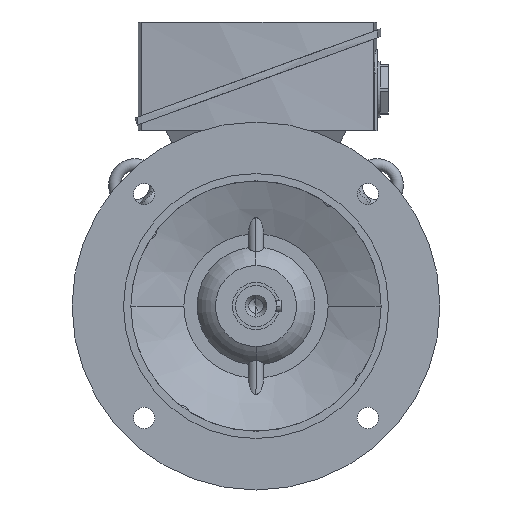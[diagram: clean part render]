
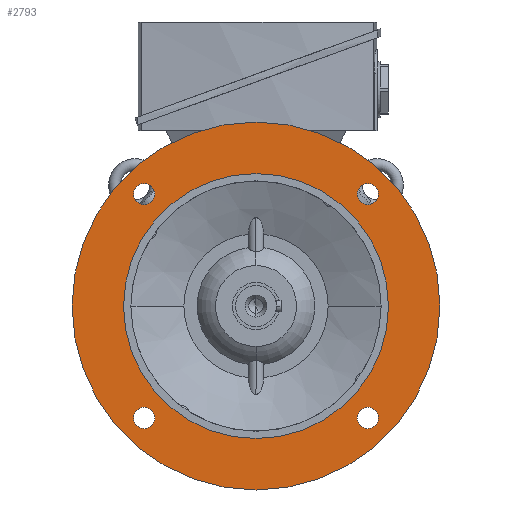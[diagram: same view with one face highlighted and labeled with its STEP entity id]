
A CAD part, left-side view. The second image highlights one B-rep face of the part: STEP entity #2793.
In plain terms, the highlighted planar face has unit normal (-1, 0, 0).
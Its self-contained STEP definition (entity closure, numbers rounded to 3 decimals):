
#2793=ADVANCED_FACE('',(#5654,#5655,#5656,#5657,#5658,#5659),#5660,.T.);
#5654=FACE_BOUND('',#8516,.T.);
#5655=FACE_BOUND('',#8517,.T.);
#5656=FACE_BOUND('',#8518,.T.);
#5657=FACE_BOUND('',#8519,.T.);
#5658=FACE_OUTER_BOUND('',#8520,.T.);
#5659=FACE_BOUND('',#8521,.T.);
#5660=PLANE('',#8522);
#8516=EDGE_LOOP('',(#17201,#17202));
#8517=EDGE_LOOP('',(#17203,#17204));
#8518=EDGE_LOOP('',(#17205,#17206));
#8519=EDGE_LOOP('',(#17207,#17208));
#8520=EDGE_LOOP('',(#17209,#17210));
#8521=EDGE_LOOP('',(#17211,#17212));
#8522=AXIS2_PLACEMENT_3D('',#17213,#17214,#17215);
#17201=ORIENTED_EDGE('',*,*,#20620,.T.);
#17202=ORIENTED_EDGE('',*,*,#17468,.T.);
#17203=ORIENTED_EDGE('',*,*,#20623,.T.);
#17204=ORIENTED_EDGE('',*,*,#17463,.T.);
#17205=ORIENTED_EDGE('',*,*,#20626,.T.);
#17206=ORIENTED_EDGE('',*,*,#17458,.T.);
#17207=ORIENTED_EDGE('',*,*,#20629,.T.);
#17208=ORIENTED_EDGE('',*,*,#17453,.T.);
#17209=ORIENTED_EDGE('',*,*,#17433,.F.);
#17210=ORIENTED_EDGE('',*,*,#20683,.F.);
#17211=ORIENTED_EDGE('',*,*,#17440,.T.);
#17212=ORIENTED_EDGE('',*,*,#20681,.T.);
#17213=CARTESIAN_POINT('',(-40.5,107.5,0.0));
#17214=DIRECTION('',(-1.0,0.0,0.0));
#17215=DIRECTION('',(0.0,-1.0,0.0));
#17433=EDGE_CURVE('',#20956,#20959,#20960,.T.);
#17440=EDGE_CURVE('',#20966,#20970,#20972,.T.);
#17453=EDGE_CURVE('',#20995,#20992,#20996,.T.);
#17458=EDGE_CURVE('',#21004,#21001,#21005,.T.);
#17463=EDGE_CURVE('',#21013,#21010,#21014,.T.);
#17468=EDGE_CURVE('',#21022,#21019,#21023,.T.);
#20620=EDGE_CURVE('',#21019,#21022,#25691,.T.);
#20623=EDGE_CURVE('',#21010,#21013,#25694,.T.);
#20626=EDGE_CURVE('',#21001,#21004,#25697,.T.);
#20629=EDGE_CURVE('',#20992,#20995,#25700,.T.);
#20681=EDGE_CURVE('',#20970,#20966,#25766,.T.);
#20683=EDGE_CURVE('',#20959,#20956,#25768,.T.);
#20956=VERTEX_POINT('',#26357);
#20959=VERTEX_POINT('',#26361);
#20960=CIRCLE('',#26362,125.0);
#20966=VERTEX_POINT('',#26369);
#20970=VERTEX_POINT('',#26374);
#20972=CIRCLE('',#26377,90.0);
#20992=VERTEX_POINT('',#26415);
#20995=VERTEX_POINT('',#26419);
#20996=CIRCLE('',#26420,7.25);
#21001=VERTEX_POINT('',#26426);
#21004=VERTEX_POINT('',#26430);
#21005=CIRCLE('',#26431,7.25);
#21010=VERTEX_POINT('',#26437);
#21013=VERTEX_POINT('',#26441);
#21014=CIRCLE('',#26442,7.25);
#21019=VERTEX_POINT('',#26448);
#21022=VERTEX_POINT('',#26452);
#21023=CIRCLE('',#26453,7.25);
#25691=CIRCLE('',#38128,7.25);
#25694=CIRCLE('',#38131,7.25);
#25697=CIRCLE('',#38134,7.25);
#25700=CIRCLE('',#38137,7.25);
#25766=CIRCLE('',#38277,90.0);
#25768=CIRCLE('',#38279,125.0);
#26357=CARTESIAN_POINT('',(-40.5,125.0,0.0));
#26361=CARTESIAN_POINT('',(-40.5,-125.0,0.));
#26362=AXIS2_PLACEMENT_3D('',#38446,#38447,#38448);
#26369=CARTESIAN_POINT('',(-40.5,90.0,0.0));
#26374=CARTESIAN_POINT('',(-40.5,-90.0,0.));
#26377=AXIS2_PLACEMENT_3D('',#38458,#38459,#38460);
#26415=CARTESIAN_POINT('',(-40.5,-81.141,81.141));
#26419=CARTESIAN_POINT('',(-40.5,-70.887,70.887));
#26420=AXIS2_PLACEMENT_3D('',#38480,#38481,#38482);
#26426=CARTESIAN_POINT('',(-40.5,81.141,81.141));
#26430=CARTESIAN_POINT('',(-40.5,70.887,70.887));
#26431=AXIS2_PLACEMENT_3D('',#38488,#38489,#38490);
#26437=CARTESIAN_POINT('',(-40.5,81.141,-81.141));
#26441=CARTESIAN_POINT('',(-40.5,70.887,-70.887));
#26442=AXIS2_PLACEMENT_3D('',#38496,#38497,#38498);
#26448=CARTESIAN_POINT('',(-40.5,-81.141,-81.141));
#26452=CARTESIAN_POINT('',(-40.5,-70.887,-70.887));
#26453=AXIS2_PLACEMENT_3D('',#38504,#38505,#38506);
#38128=AXIS2_PLACEMENT_3D('',#41656,#41657,#41658);
#38131=AXIS2_PLACEMENT_3D('',#41662,#41663,#41664);
#38134=AXIS2_PLACEMENT_3D('',#41668,#41669,#41670);
#38137=AXIS2_PLACEMENT_3D('',#41674,#41675,#41676);
#38277=AXIS2_PLACEMENT_3D('',#41715,#41716,#41717);
#38279=AXIS2_PLACEMENT_3D('',#41718,#41719,#41720);
#38446=CARTESIAN_POINT('',(-40.5,0.0,0.0));
#38447=DIRECTION('',(1.0,0.0,0.0));
#38448=DIRECTION('',(0.0,1.0,0.0));
#38458=CARTESIAN_POINT('',(-40.5,0.0,0.0));
#38459=DIRECTION('',(1.0,0.0,0.0));
#38460=DIRECTION('',(0.0,1.0,0.0));
#38480=CARTESIAN_POINT('',(-40.5,-76.014,76.014));
#38481=DIRECTION('',(1.0,0.0,-0.0));
#38482=DIRECTION('',(0.0,-0.707,0.707));
#38488=CARTESIAN_POINT('',(-40.5,76.014,76.014));
#38489=DIRECTION('',(1.0,0.0,-0.0));
#38490=DIRECTION('',(0.0,0.707,0.707));
#38496=CARTESIAN_POINT('',(-40.5,76.014,-76.014));
#38497=DIRECTION('',(1.0,-0.0,0.0));
#38498=DIRECTION('',(0.0,0.707,-0.707));
#38504=CARTESIAN_POINT('',(-40.5,-76.014,-76.014));
#38505=DIRECTION('',(1.0,0.0,0.0));
#38506=DIRECTION('',(0.0,-0.707,-0.707));
#41656=CARTESIAN_POINT('',(-40.5,-76.014,-76.014));
#41657=DIRECTION('',(1.0,0.0,0.0));
#41658=DIRECTION('',(0.0,-0.707,-0.707));
#41662=CARTESIAN_POINT('',(-40.5,76.014,-76.014));
#41663=DIRECTION('',(1.0,-0.0,0.0));
#41664=DIRECTION('',(0.0,0.707,-0.707));
#41668=CARTESIAN_POINT('',(-40.5,76.014,76.014));
#41669=DIRECTION('',(1.0,0.0,-0.0));
#41670=DIRECTION('',(0.0,0.707,0.707));
#41674=CARTESIAN_POINT('',(-40.5,-76.014,76.014));
#41675=DIRECTION('',(1.0,0.0,-0.0));
#41676=DIRECTION('',(0.0,-0.707,0.707));
#41715=CARTESIAN_POINT('',(-40.5,0.0,0.0));
#41716=DIRECTION('',(1.0,0.0,0.0));
#41717=DIRECTION('',(0.0,1.0,0.0));
#41718=CARTESIAN_POINT('',(-40.5,0.0,0.0));
#41719=DIRECTION('',(1.0,0.0,0.0));
#41720=DIRECTION('',(0.0,1.0,0.0));
